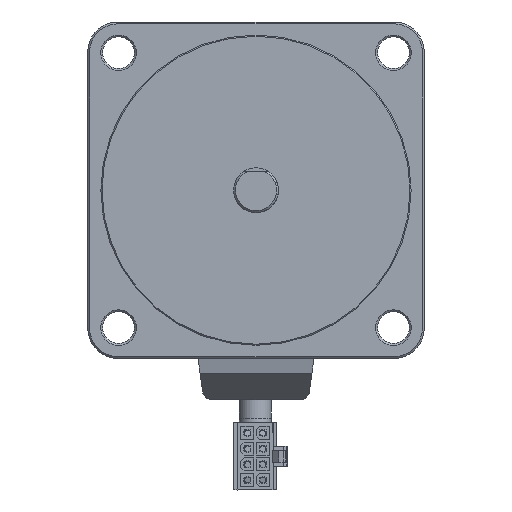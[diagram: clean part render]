
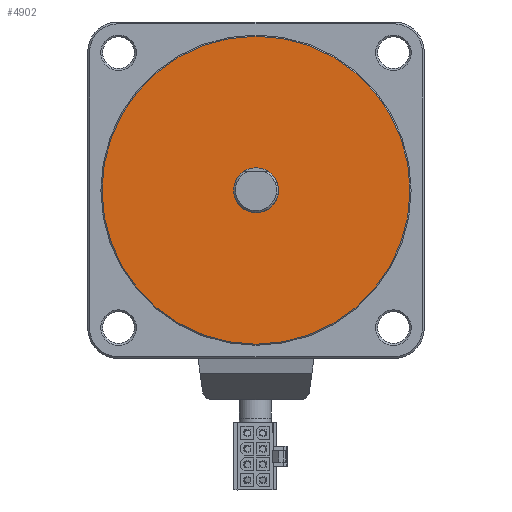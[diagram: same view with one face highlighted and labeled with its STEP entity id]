
A CAD part, front view. The second image highlights one B-rep face of the part: STEP entity #4902.
In plain terms, the highlighted planar face has unit normal (0, -1, 0).
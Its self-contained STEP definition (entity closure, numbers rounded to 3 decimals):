
#2123=CARTESIAN_POINT('',(6.,-2.0,0.));
#2124=VERTEX_POINT('',#2123);
#2125=CARTESIAN_POINT('',(0.0,-2.0,0.0));
#2126=DIRECTION('',(0.0,1.0,0.0));
#2127=DIRECTION('',(-1.0,0.0,0.0));
#2128=AXIS2_PLACEMENT_3D('',#2125,#2126,#2127);
#2129=CIRCLE('',#2128,6.);
#2130=EDGE_CURVE('',#2124,#2124,#2129,.T.);
#4856=CARTESIAN_POINT('',(41.2,-2.0,0.));
#4857=VERTEX_POINT('',#4856);
#4858=CARTESIAN_POINT('',(0.0,-2.0,0.0));
#4859=DIRECTION('',(0.0,1.0,0.0));
#4860=DIRECTION('',(-1.0,0.0,0.0));
#4861=AXIS2_PLACEMENT_3D('',#4858,#4859,#4860);
#4862=CIRCLE('',#4861,41.2);
#4863=EDGE_CURVE('',#4857,#4857,#4862,.T.);
#4891=CARTESIAN_POINT('',(0.0,-2.0,0.0));
#4892=DIRECTION('',(0.0,1.0,0.0));
#4893=DIRECTION('',(0.0,0.0,1.0));
#4894=AXIS2_PLACEMENT_3D('',#4891,#4892,#4893);
#4895=PLANE('',#4894);
#4896=ORIENTED_EDGE('',*,*,#4863,.F.);
#4897=EDGE_LOOP('',(#4896));
#4898=FACE_OUTER_BOUND('',#4897,.T.);
#4899=ORIENTED_EDGE('',*,*,#2130,.T.);
#4900=EDGE_LOOP('',(#4899));
#4901=FACE_BOUND('',#4900,.T.);
#4902=ADVANCED_FACE('',(#4898,#4901),#4895,.F.);
